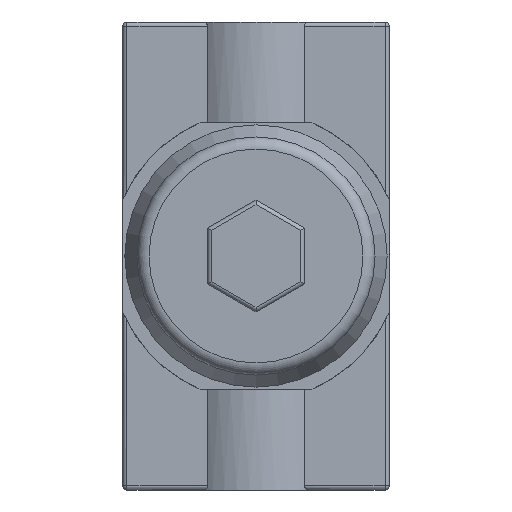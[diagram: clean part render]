
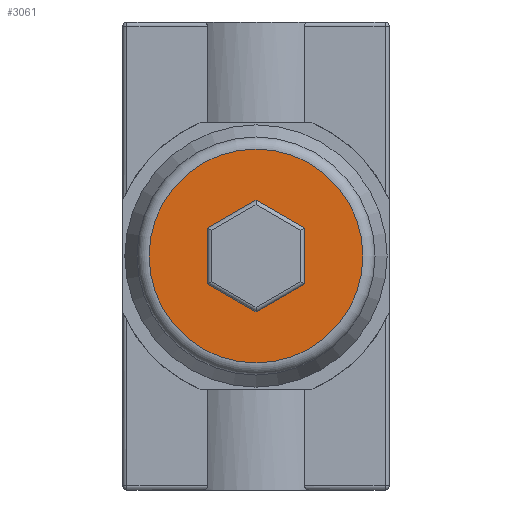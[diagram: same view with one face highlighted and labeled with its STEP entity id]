
A CAD part, front view. The second image highlights one B-rep face of the part: STEP entity #3061.
In plain terms, the highlighted planar face has unit normal (0, -1, 0).
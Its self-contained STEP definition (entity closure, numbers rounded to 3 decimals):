
#224=FACE_BOUND('',#451,.T.);
#254=FACE_OUTER_BOUND('',#450,.T.);
#450=EDGE_LOOP('',(#2158));
#451=EDGE_LOOP('',(#2159,#2160,#2161,#2162,#2163,#2164));
#667=LINE('',#4900,#911);
#668=LINE('',#4902,#912);
#669=LINE('',#4904,#913);
#670=LINE('',#4906,#914);
#671=LINE('',#4908,#915);
#672=LINE('',#4909,#916);
#911=VECTOR('',#3786,1000.);
#912=VECTOR('',#3787,1000.);
#913=VECTOR('',#3788,1000.);
#914=VECTOR('',#3789,1000.);
#915=VECTOR('',#3790,1000.);
#916=VECTOR('',#3791,1000.);
#1163=CIRCLE('',#3324,26.5);
#1353=VERTEX_POINT('',#4896);
#1354=VERTEX_POINT('',#4898);
#1355=VERTEX_POINT('',#4899);
#1356=VERTEX_POINT('',#4901);
#1357=VERTEX_POINT('',#4903);
#1358=VERTEX_POINT('',#4905);
#1359=VERTEX_POINT('',#4907);
#1664=EDGE_CURVE('',#1353,#1353,#1163,.T.);
#1665=EDGE_CURVE('',#1354,#1355,#667,.T.);
#1666=EDGE_CURVE('',#1356,#1354,#668,.T.);
#1667=EDGE_CURVE('',#1357,#1356,#669,.T.);
#1668=EDGE_CURVE('',#1358,#1357,#670,.T.);
#1669=EDGE_CURVE('',#1359,#1358,#671,.T.);
#1670=EDGE_CURVE('',#1355,#1359,#672,.T.);
#2158=ORIENTED_EDGE('',*,*,#1664,.T.);
#2159=ORIENTED_EDGE('',*,*,#1665,.F.);
#2160=ORIENTED_EDGE('',*,*,#1666,.F.);
#2161=ORIENTED_EDGE('',*,*,#1667,.F.);
#2162=ORIENTED_EDGE('',*,*,#1668,.F.);
#2163=ORIENTED_EDGE('',*,*,#1669,.F.);
#2164=ORIENTED_EDGE('',*,*,#1670,.F.);
#2970=PLANE('',#3323);
#3061=ADVANCED_FACE('',(#254,#224),#2970,.F.);
#3323=AXIS2_PLACEMENT_3D('',#4895,#3782,#3783);
#3324=AXIS2_PLACEMENT_3D('',#4897,#3784,#3785);
#3782=DIRECTION('center_axis',(0.,1.,0.));
#3783=DIRECTION('ref_axis',(0.,0.,1.));
#3784=DIRECTION('center_axis',(0.,-1.,0.));
#3785=DIRECTION('ref_axis',(0.,0.,-1.));
#3786=DIRECTION('',(-0.866,0.,0.5));
#3787=DIRECTION('',(0.,0.,1.));
#3788=DIRECTION('',(0.866,0.,0.5));
#3789=DIRECTION('',(0.866,0.,-0.5));
#3790=DIRECTION('',(0.,0.,-1.));
#3791=DIRECTION('',(-0.866,0.,-0.5));
#4895=CARTESIAN_POINT('Origin',(33.,-147.,-84.5));
#4896=CARTESIAN_POINT('',(33.,-147.,-31.5));
#4897=CARTESIAN_POINT('Origin',(33.,-147.,-58.));
#4898=CARTESIAN_POINT('',(45.,-147.,-51.072));
#4899=CARTESIAN_POINT('',(33.,-147.,-44.144));
#4900=CARTESIAN_POINT('',(45.,-147.,-51.072));
#4901=CARTESIAN_POINT('',(45.,-147.,-64.928));
#4902=CARTESIAN_POINT('',(45.,-147.,-64.928));
#4903=CARTESIAN_POINT('',(33.,-147.,-71.856));
#4904=CARTESIAN_POINT('',(33.,-147.,-71.856));
#4905=CARTESIAN_POINT('',(21.,-147.,-64.928));
#4906=CARTESIAN_POINT('',(21.,-147.,-64.928));
#4907=CARTESIAN_POINT('',(21.,-147.,-51.072));
#4908=CARTESIAN_POINT('',(21.,-147.,-51.072));
#4909=CARTESIAN_POINT('',(33.,-147.,-44.144));
